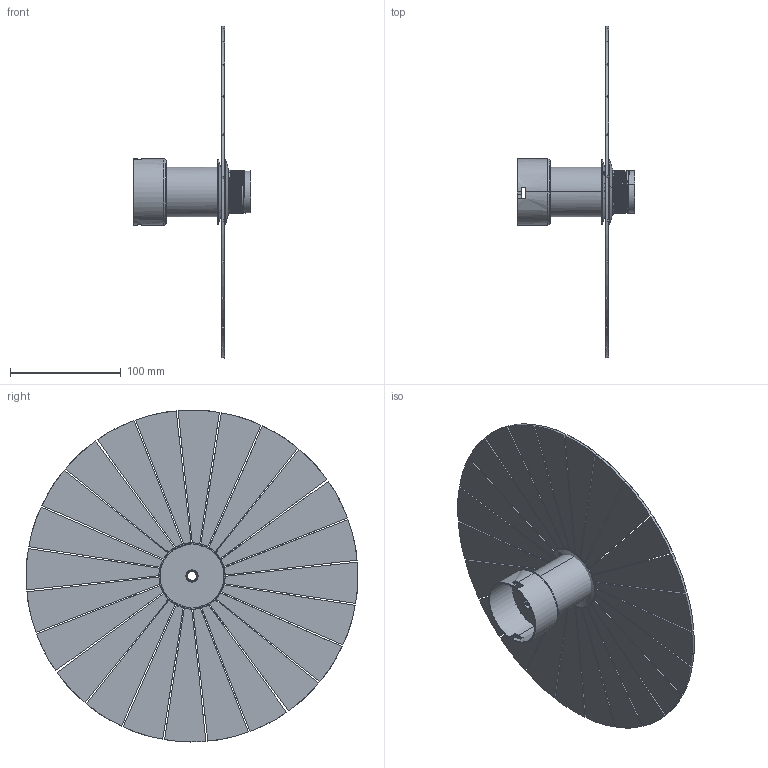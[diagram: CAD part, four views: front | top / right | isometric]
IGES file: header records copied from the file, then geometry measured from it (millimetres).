
Start section: SolidWorks IGES file using analytic representation for surfaces
Global section: file name: C:\Users\adrian\Desktop\MODELADOS USA\LAOS\A1141.IGS; native system: SolidWorks 2023; preprocessor: SolidWorks 2023; author: adrian; date: 260609.130532; units: inch
Bounding box: 106.74 x 300.36 x 300.36 mm (x, y, z)
Surface area: 201759.1 mm2 (no closed solid volume)
Topology: 0 solids, 0 shells, 392 faces, 7279 edges, 7279 vertices
Faces by surface type: bspline 367, revolution 25
